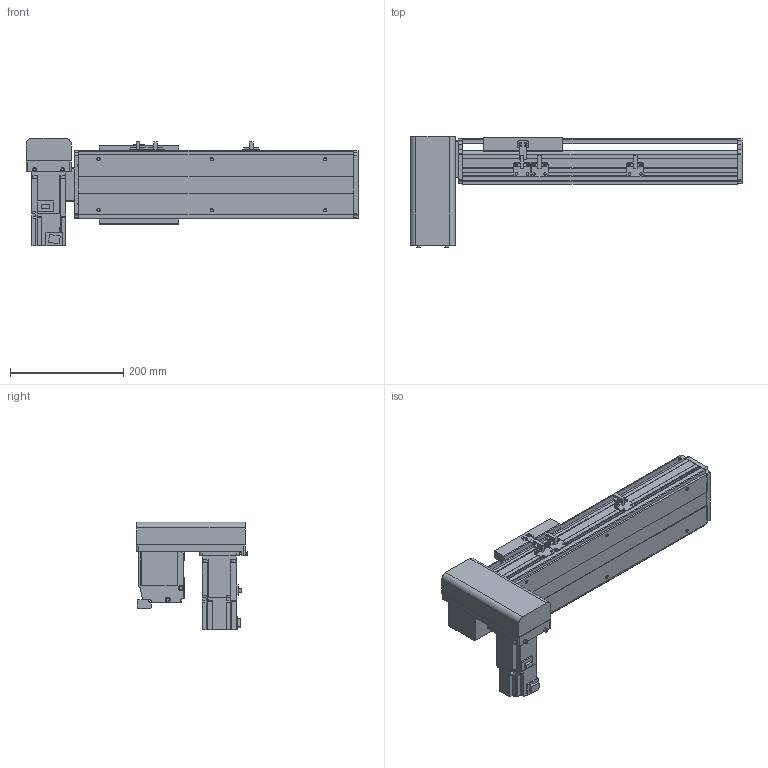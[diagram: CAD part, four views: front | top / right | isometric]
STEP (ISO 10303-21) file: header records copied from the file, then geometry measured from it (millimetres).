
FILE_DESCRIPTION( ( 'STEP AP214' ), '1' );
FILE_NAME( 'x:/temp/worker_27/temp/exporttempdir_6708_172_HBTai/format_0/PBS120-P40-S200-RD-T40-C1-N(0).stp', '2022-06-06T00:40:26', ( 'License CC BY-ND 4.0' ), ( 'CADENAS' ), ' ', 'PARTsolutions', ' ' );
FILE_SCHEMA( ( 'AUTOMOTIVE_DESIGN { 1 0 10303 214 1 1 1 1 }' ) );
Length unit declared in the file: millimetre
Products named in the file (7): PBS120-P40-S200-RD-T40-C1-N(0); _PBS120-S200()_body; _PBS120T-RD_motors; _T40-p1; _PBS120_sliser; _PBS120_plant; _PBS120_sensor
Assembly tree (8 placements, depth 2):
  PBS120-P40-S200-RD-T40-C1-N(0)
    _PBS120-S200()_body
    _PBS120T-RD_motors
    _T40-p1
    _PBS120_sliser
    _PBS120_plant
    _PBS120_sensor  x3
Bounding box: 586 x 196 x 189.7 mm (x, y, z)
Volume: 3357440.5 mm3; surface area: 589124.7 mm2
Topology: 8 solids, 8 shells, 798 faces, 2106 edges, 1357 vertices
Faces by surface type: plane 539, cylinder 219, cone 38, torus 2
Full cylindrical faces by diameter (mm): 2.459 x6, 3.242 x4, 4 x2, 4.134 x4, 4.5 x10, 4.917 x10, 5.5 x11, 6 x2, 6.6 x1, 7 x2, 8.5 x4, 9 x4, 12 x1, 14 x1, 30 x2, 40 x1, 50 x2
Entity records: 26484 total; most frequent: DIRECTION 3620, CARTESIAN_POINT 3587, ORIENTED_EDGE 3442, EDGE_CURVE 1721, LINE 1228, VECTOR 1228, AXIS2_PLACEMENT_3D 1196, VERTEX_POINT 1163
